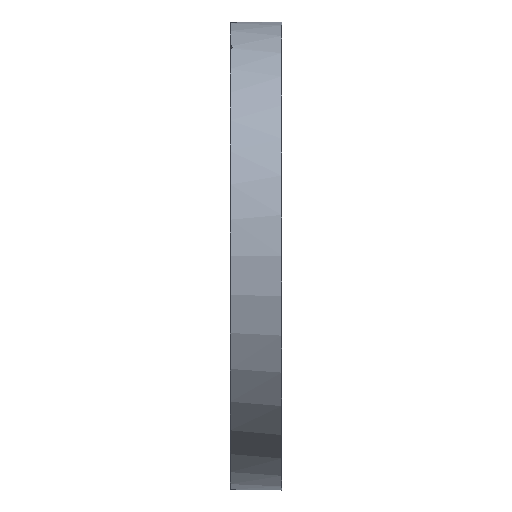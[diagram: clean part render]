
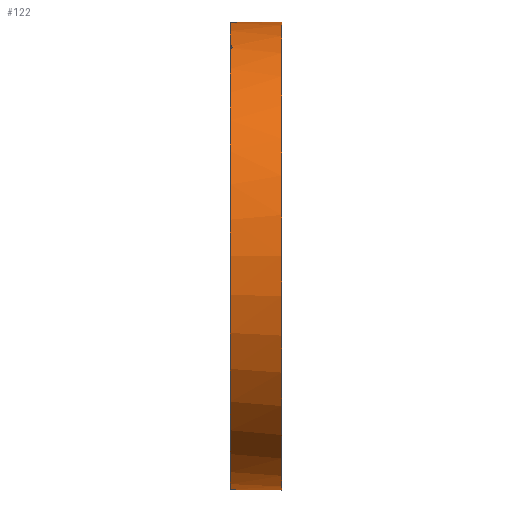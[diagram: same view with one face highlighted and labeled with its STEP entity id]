
A CAD part, top view. The second image highlights one B-rep face of the part: STEP entity #122.
In plain terms, the highlighted cylindrical face has radius 101.5 mm (diameter 203 mm), a full revolution.
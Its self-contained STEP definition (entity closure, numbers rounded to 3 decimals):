
#122 = ADVANCED_FACE( '', ( #289, #290 ), #291, .T. );
#289 = FACE_OUTER_BOUND( '', #471, .T. );
#290 = FACE_OUTER_BOUND( '', #472, .T. );
#291 = CYLINDRICAL_SURFACE( '', #473, 101.5 );
#471 = EDGE_LOOP( '', ( #689, #690, #691, #692 ) );
#472 = EDGE_LOOP( '', ( #693 ) );
#473 = AXIS2_PLACEMENT_3D( '', #694, #695, #696 );
#689 = ORIENTED_EDGE( '', *, *, #855, .F. );
#690 = ORIENTED_EDGE( '', *, *, #856, .F. );
#691 = ORIENTED_EDGE( '', *, *, #809, .F. );
#692 = ORIENTED_EDGE( '', *, *, #831, .F. );
#693 = ORIENTED_EDGE( '', *, *, #785, .T. );
#694 = CARTESIAN_POINT( '', ( -60., 0., 0. ) );
#695 = DIRECTION( '', ( -1., 0., 0. ) );
#696 = DIRECTION( '', ( 0., 0., 1. ) );
#785 = EDGE_CURVE( '', #880, #880, #881, .T. );
#809 = EDGE_CURVE( '', #926, #927, #928, .T. );
#831 = EDGE_CURVE( '', #959, #926, #962, .T. );
#855 = EDGE_CURVE( '', #999, #959, #1000, .T. );
#856 = EDGE_CURVE( '', #927, #999, #1001, .T. );
#880 = VERTEX_POINT( '', #1029 );
#881 = CIRCLE( '', #1030, 101.5 );
#926 = VERTEX_POINT( '', #1075 );
#927 = VERTEX_POINT( '', #1076 );
#928 = B_SPLINE_CURVE_WITH_KNOTS( '', 3, ( #1077, #1078, #1079, #1080, #1081, #1082, #1083, #1084, #1085, #1086, #1087, #1088, #1089, #1090, #1091, #1092, #1093, #1094 ), .UNSPECIFIED., .F., .F., ( 4, 2, 2, 2, 2, 2, 2, 2, 4 ), ( 0., 0.001, 0.001, 0.002, 0.002, 0.003, 0.003, 0.004, 0.004 ), .UNSPECIFIED. );
#959 = VERTEX_POINT( '', #1144 );
#962 = CIRCLE( '', #1148, 101.5 );
#999 = VERTEX_POINT( '', #1185 );
#1000 = B_SPLINE_CURVE_WITH_KNOTS( '', 3, ( #1186, #1187, #1188, #1189, #1190, #1191, #1192, #1193, #1194, #1195, #1196, #1197, #1198, #1199, #1200, #1201, #1202, #1203 ), .UNSPECIFIED., .F., .F., ( 4, 2, 2, 2, 2, 2, 2, 2, 4 ), ( 0., 0.001, 0.001, 0.002, 0.002, 0.003, 0.003, 0.004, 0.004 ), .UNSPECIFIED. );
#1001 = CIRCLE( '', #1204, 101.5 );
#1029 = CARTESIAN_POINT( '', ( 0., 0., 101.5 ) );
#1030 = AXIS2_PLACEMENT_3D( '', #1250, #1251, #1252 );
#1075 = CARTESIAN_POINT( '', ( -22.3, -89.493, -47.888 ) );
#1076 = CARTESIAN_POINT( '', ( -22.3, -91.345, -44.253 ) );
#1077 = CARTESIAN_POINT( '', ( -22.3, -89.493, -47.888 ) );
#1078 = CARTESIAN_POINT( '', ( -22.172, -89.558, -47.766 ) );
#1079 = CARTESIAN_POINT( '', ( -22.059, -89.628, -47.635 ) );
#1080 = CARTESIAN_POINT( '', ( -21.861, -89.775, -47.357 ) );
#1081 = CARTESIAN_POINT( '', ( -21.776, -89.854, -47.208 ) );
#1082 = CARTESIAN_POINT( '', ( -21.639, -90.015, -46.899 ) );
#1083 = CARTESIAN_POINT( '', ( -21.587, -90.098, -46.74 ) );
#1084 = CARTESIAN_POINT( '', ( -21.518, -90.266, -46.415 ) );
#1085 = CARTESIAN_POINT( '', ( -21.5, -90.352, -46.247 ) );
#1086 = CARTESIAN_POINT( '', ( -21.5, -90.522, -45.914 ) );
#1087 = CARTESIAN_POINT( '', ( -21.517, -90.605, -45.749 ) );
#1088 = CARTESIAN_POINT( '', ( -21.586, -90.77, -45.421 ) );
#1089 = CARTESIAN_POINT( '', ( -21.639, -90.851, -45.258 ) );
#1090 = CARTESIAN_POINT( '', ( -21.774, -91.006, -44.947 ) );
#1091 = CARTESIAN_POINT( '', ( -21.858, -91.079, -44.798 ) );
#1092 = CARTESIAN_POINT( '', ( -22.057, -91.219, -44.513 ) );
#1093 = CARTESIAN_POINT( '', ( -22.172, -91.285, -44.378 ) );
#1094 = CARTESIAN_POINT( '', ( -22.3, -91.345, -44.253 ) );
#1144 = CARTESIAN_POINT( '', ( -22.3, 91.345, 44.253 ) );
#1148 = AXIS2_PLACEMENT_3D( '', #1343, #1344, #1345 );
#1185 = CARTESIAN_POINT( '', ( -22.3, 89.493, 47.888 ) );
#1186 = CARTESIAN_POINT( '', ( -22.3, 89.493, 47.888 ) );
#1187 = CARTESIAN_POINT( '', ( -22.172, 89.558, 47.766 ) );
#1188 = CARTESIAN_POINT( '', ( -22.059, 89.628, 47.635 ) );
#1189 = CARTESIAN_POINT( '', ( -21.861, 89.775, 47.357 ) );
#1190 = CARTESIAN_POINT( '', ( -21.776, 89.854, 47.208 ) );
#1191 = CARTESIAN_POINT( '', ( -21.639, 90.015, 46.899 ) );
#1192 = CARTESIAN_POINT( '', ( -21.587, 90.098, 46.74 ) );
#1193 = CARTESIAN_POINT( '', ( -21.518, 90.266, 46.415 ) );
#1194 = CARTESIAN_POINT( '', ( -21.5, 90.352, 46.247 ) );
#1195 = CARTESIAN_POINT( '', ( -21.5, 90.522, 45.914 ) );
#1196 = CARTESIAN_POINT( '', ( -21.517, 90.605, 45.749 ) );
#1197 = CARTESIAN_POINT( '', ( -21.586, 90.77, 45.421 ) );
#1198 = CARTESIAN_POINT( '', ( -21.639, 90.851, 45.258 ) );
#1199 = CARTESIAN_POINT( '', ( -21.774, 91.006, 44.947 ) );
#1200 = CARTESIAN_POINT( '', ( -21.858, 91.079, 44.798 ) );
#1201 = CARTESIAN_POINT( '', ( -22.057, 91.219, 44.513 ) );
#1202 = CARTESIAN_POINT( '', ( -22.172, 91.285, 44.378 ) );
#1203 = CARTESIAN_POINT( '', ( -22.3, 91.345, 44.253 ) );
#1204 = AXIS2_PLACEMENT_3D( '', #1388, #1389, #1390 );
#1250 = CARTESIAN_POINT( '', ( 0., 0., 0. ) );
#1251 = DIRECTION( '', ( -1., 0., 0. ) );
#1252 = DIRECTION( '', ( 0., 0., 1. ) );
#1343 = CARTESIAN_POINT( '', ( -22.3, 0., 0. ) );
#1344 = DIRECTION( '', ( -1., 0., 0. ) );
#1345 = DIRECTION( '', ( 0., 0., 1. ) );
#1388 = CARTESIAN_POINT( '', ( -22.3, 0., 0. ) );
#1389 = DIRECTION( '', ( -1., 0., 0. ) );
#1390 = DIRECTION( '', ( 0., 0., 1. ) );
